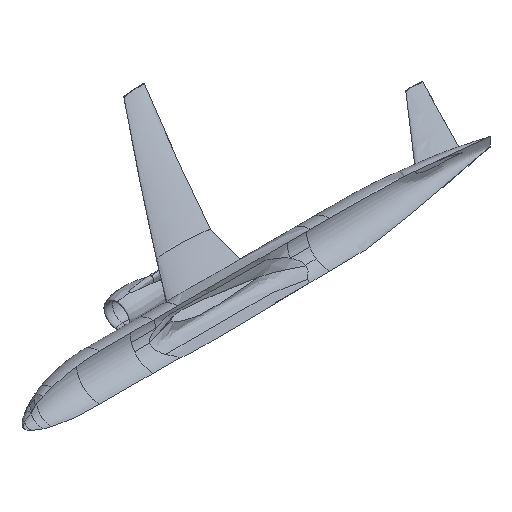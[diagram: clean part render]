
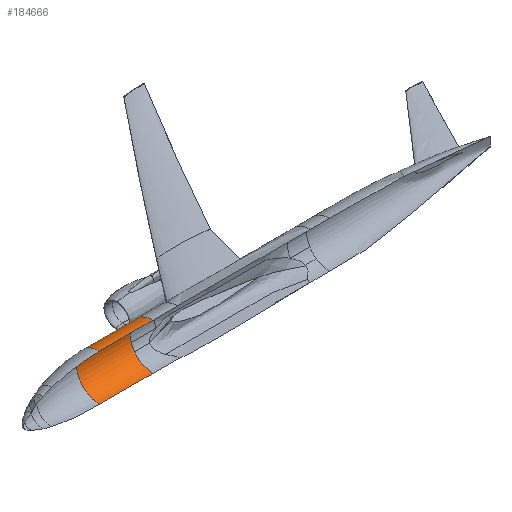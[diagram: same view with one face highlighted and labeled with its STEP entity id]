
A CAD part, isometric view. The second image highlights one B-rep face of the part: STEP entity #184666.
In plain terms, the highlighted free-form (B-spline) face has degree [1, 4] with [2, 7] control points.
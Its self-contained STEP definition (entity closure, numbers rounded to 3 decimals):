
#131574=CARTESIAN_POINT('',(779.081,98.011,148.492));
#131575=VERTEX_POINT('',#131574);
#131585=CARTESIAN_POINT('',(779.081,0.,99.14));
#131586=VERTEX_POINT('',#131585);
#131594=CARTESIAN_POINT('',(779.081,0.,99.14));
#131595=CARTESIAN_POINT('',(779.081,7.985,99.139));
#131596=CARTESIAN_POINT('',(779.081,19.962,100.32));
#131597=CARTESIAN_POINT('',(779.081,35.472,104.206));
#131598=CARTESIAN_POINT('',(779.081,50.526,109.591));
#131599=CARTESIAN_POINT('',(779.081,64.678,117.156));
#131600=CARTESIAN_POINT('',(779.081,77.52,126.681));
#131601=CARTESIAN_POINT('',(779.081,87.895,136.084));
#131602=CARTESIAN_POINT('',(779.081,94.438,143.671));
#131603=CARTESIAN_POINT('',(779.081,98.011,148.492));
#131604=B_SPLINE_CURVE_WITH_KNOTS('',3,(#131594,#131595,#131596,#131597,#131598,#131599,#131600,#131601,#131602,#131603),.UNSPECIFIED.,.F.,.U.,(4,1,1,1,1,1,1,4),(0.0,0.063,0.094,0.125,0.188,0.219,0.25,0.297),.UNSPECIFIED.);
#131605=EDGE_CURVE('',#131586,#131575,#131604,.T.);
#184517=CARTESIAN_POINT('',(779.081,115.609,182.171));
#184518=VERTEX_POINT('',#184517);
#184519=CARTESIAN_POINT('',(779.081,98.011,148.492));
#184520=CARTESIAN_POINT('',(779.081,101.571,153.294));
#184521=CARTESIAN_POINT('',(779.081,108.392,164.069));
#184522=CARTESIAN_POINT('',(779.081,113.456,175.783));
#184523=CARTESIAN_POINT('',(779.081,115.609,182.171));
#184524=B_SPLINE_CURVE_WITH_KNOTS('',3,(#184519,#184520,#184521,#184522,#184523),.UNSPECIFIED.,.F.,.U.,(4,1,4),(0.297,0.344,0.397),.UNSPECIFIED.);
#184525=EDGE_CURVE('',#131575,#184518,#184524,.T.);
#184559=CARTESIAN_POINT('',(779.081,0.,343.14));
#184560=VERTEX_POINT('',#184559);
#184561=CARTESIAN_POINT('',(779.081,115.609,182.171));
#184562=CARTESIAN_POINT('',(779.081,118.559,190.916));
#184563=CARTESIAN_POINT('',(779.081,121.351,203.926));
#184564=CARTESIAN_POINT('',(779.081,122.196,221.14));
#184565=CARTESIAN_POINT('',(779.081,121.413,237.11));
#184566=CARTESIAN_POINT('',(779.081,118.282,252.848));
#184567=CARTESIAN_POINT('',(779.081,112.894,267.902));
#184568=CARTESIAN_POINT('',(779.081,106.059,282.357));
#184569=CARTESIAN_POINT('',(779.081,97.144,295.699));
#184570=CARTESIAN_POINT('',(779.081,86.406,307.545));
#184571=CARTESIAN_POINT('',(779.081,74.559,318.284));
#184572=CARTESIAN_POINT('',(779.081,61.217,327.199));
#184573=CARTESIAN_POINT('',(779.081,46.762,334.034));
#184574=CARTESIAN_POINT('',(779.081,35.472,338.074));
#184575=CARTESIAN_POINT('',(779.081,19.962,341.96));
#184576=CARTESIAN_POINT('',(779.081,7.985,343.141));
#184577=CARTESIAN_POINT('',(779.081,0.,343.14));
#184578=B_SPLINE_CURVE_WITH_KNOTS('',3,(#184561,#184562,#184563,#184564,#184565,#184566,#184567,#184568,#184569,#184570,#184571,#184572,#184573,#184574,#184575,#184576,#184577),.UNSPECIFIED.,.F.,.U.,(4,1,1,1,1,1,1,1,1,1,1,1,1,1,4),(0.397,0.469,0.5,0.531,0.594,0.625,0.656,0.719,0.75,0.781,0.844,0.875,0.906,0.938,1.0),.UNSPECIFIED.);
#184579=EDGE_CURVE('',#184518,#184560,#184578,.T.);
#184591=CARTESIAN_POINT('',(786.183,-16.083,100.205));
#184592=CARTESIAN_POINT('',(487.898,-16.083,100.205));
#184593=CARTESIAN_POINT('',(786.183,37.809,93.038));
#184594=CARTESIAN_POINT('',(487.898,37.809,93.038));
#184595=CARTESIAN_POINT('',(786.183,89.002,116.793));
#184596=CARTESIAN_POINT('',(487.898,89.002,116.793));
#184597=CARTESIAN_POINT('',(786.183,156.538,217.041));
#184598=CARTESIAN_POINT('',(487.898,156.538,217.041));
#184599=CARTESIAN_POINT('',(786.183,94.342,320.686));
#184600=CARTESIAN_POINT('',(487.898,94.342,320.686));
#184601=CARTESIAN_POINT('',(786.183,44.461,347.088));
#184602=CARTESIAN_POINT('',(487.898,44.461,347.088));
#184603=CARTESIAN_POINT('',(786.183,-9.731,342.751));
#184604=CARTESIAN_POINT('',(487.898,-9.731,342.751));
#184612=(BOUNDED_SURFACE()B_SPLINE_SURFACE(1,4,((#184591,#184593,#184595,#184597,#184599,#184601,#184603),(#184592,#184594,#184596,#184598,#184600,#184602,#184604)),.UNSPECIFIED.,.F.,.F.,.U.)B_SPLINE_SURFACE_WITH_KNOTS((2,2),(5,2,5),(0.0,298.285),(0.0,217.463,434.926),.UNSPECIFIED.)GEOMETRIC_REPRESENTATION_ITEM()RATIONAL_B_SPLINE_SURFACE(((1.437,1.199,1.066,0.934,1.066,1.199,1.437),(1.437,1.199,1.066,0.934,1.066,1.199,1.437)))REPRESENTATION_ITEM('')SURFACE());
#184613=CARTESIAN_POINT('',(495.,0.,99.14));
#184614=VERTEX_POINT('',#184613);
#184615=CARTESIAN_POINT('',(495.,0.,343.14));
#184616=VERTEX_POINT('',#184615);
#184617=CARTESIAN_POINT('',(495.,0.,99.14));
#184618=CARTESIAN_POINT('',(495.,7.985,99.139));
#184619=CARTESIAN_POINT('',(495.,19.962,100.32));
#184620=CARTESIAN_POINT('',(495.,35.472,104.206));
#184621=CARTESIAN_POINT('',(495.,46.762,108.245));
#184622=CARTESIAN_POINT('',(495.,57.603,113.373));
#184623=CARTESIAN_POINT('',(495.,71.318,121.592));
#184624=CARTESIAN_POINT('',(495.,83.722,131.772));
#184625=CARTESIAN_POINT('',(495.,94.459,143.62));
#184626=CARTESIAN_POINT('',(495.,103.984,156.462));
#184627=CARTESIAN_POINT('',(495.,111.549,170.614));
#184628=CARTESIAN_POINT('',(495.,116.934,185.668));
#184629=CARTESIAN_POINT('',(495.,120.82,201.178));
#184630=CARTESIAN_POINT('',(495.,122.393,217.147));
#184631=CARTESIAN_POINT('',(495.,121.607,233.117));
#184632=CARTESIAN_POINT('',(495.,119.263,248.934));
#184633=CARTESIAN_POINT('',(495.,114.604,264.289));
#184634=CARTESIAN_POINT('',(495.,107.767,278.743));
#184635=CARTESIAN_POINT('',(495.,99.548,292.458));
#184636=CARTESIAN_POINT('',(495.,89.368,304.862));
#184637=CARTESIAN_POINT('',(495.,77.52,315.599));
#184638=CARTESIAN_POINT('',(495.,64.678,325.124));
#184639=CARTESIAN_POINT('',(495.,50.526,332.689));
#184640=CARTESIAN_POINT('',(495.,35.472,338.074));
#184641=CARTESIAN_POINT('',(495.,19.962,341.96));
#184642=CARTESIAN_POINT('',(495.,7.985,343.141));
#184643=CARTESIAN_POINT('',(495.,0.,343.14));
#184644=B_SPLINE_CURVE_WITH_KNOTS('',3,(#184617,#184618,#184619,#184620,#184621,#184622,#184623,#184624,#184625,#184626,#184627,#184628,#184629,#184630,#184631,#184632,#184633,#184634,#184635,#184636,#184637,#184638,#184639,#184640,#184641,#184642,#184643),.UNSPECIFIED.,.F.,.U.,(4,1,1,1,1,1,1,1,1,1,1,1,1,1,1,1,1,1,1,1,1,1,1,1,4),(0.0,0.063,0.094,0.125,0.156,0.188,0.25,0.281,0.313,0.375,0.406,0.438,0.5,0.531,0.563,0.625,0.656,0.688,0.75,0.781,0.813,0.875,0.906,0.938,1.0),.UNSPECIFIED.);
#184645=EDGE_CURVE('',#184614,#184616,#184644,.T.);
#184646=ORIENTED_EDGE('',*,*,#184645,.T.);
#184647=CARTESIAN_POINT('',(495.,0.,343.14));
#184648=CARTESIAN_POINT('',(589.694,0.,343.14));
#184649=CARTESIAN_POINT('',(684.387,0.,343.14));
#184650=CARTESIAN_POINT('',(779.081,0.,343.14));
#184651=QUASI_UNIFORM_CURVE('',3,(#184647,#184648,#184649,#184650),.UNSPECIFIED.,.F.,.U.);
#184652=EDGE_CURVE('',#184616,#184560,#184651,.T.);
#184653=ORIENTED_EDGE('',*,*,#184652,.T.);
#184654=ORIENTED_EDGE('',*,*,#184579,.F.);
#184655=ORIENTED_EDGE('',*,*,#184525,.F.);
#184656=ORIENTED_EDGE('',*,*,#131605,.F.);
#184657=CARTESIAN_POINT('',(495.,0.,99.14));
#184658=CARTESIAN_POINT('',(589.694,0.,99.14));
#184659=CARTESIAN_POINT('',(684.387,0.,99.14));
#184660=CARTESIAN_POINT('',(779.081,0.,99.14));
#184661=QUASI_UNIFORM_CURVE('',3,(#184657,#184658,#184659,#184660),.UNSPECIFIED.,.F.,.U.);
#184662=EDGE_CURVE('',#184614,#131586,#184661,.T.);
#184663=ORIENTED_EDGE('',*,*,#184662,.F.);
#184664=EDGE_LOOP('',(#184646,#184653,#184654,#184655,#184656,#184663));
#184665=FACE_OUTER_BOUND('',#184664,.T.);
#184666=ADVANCED_FACE('',(#184665),#184612,.T.);
